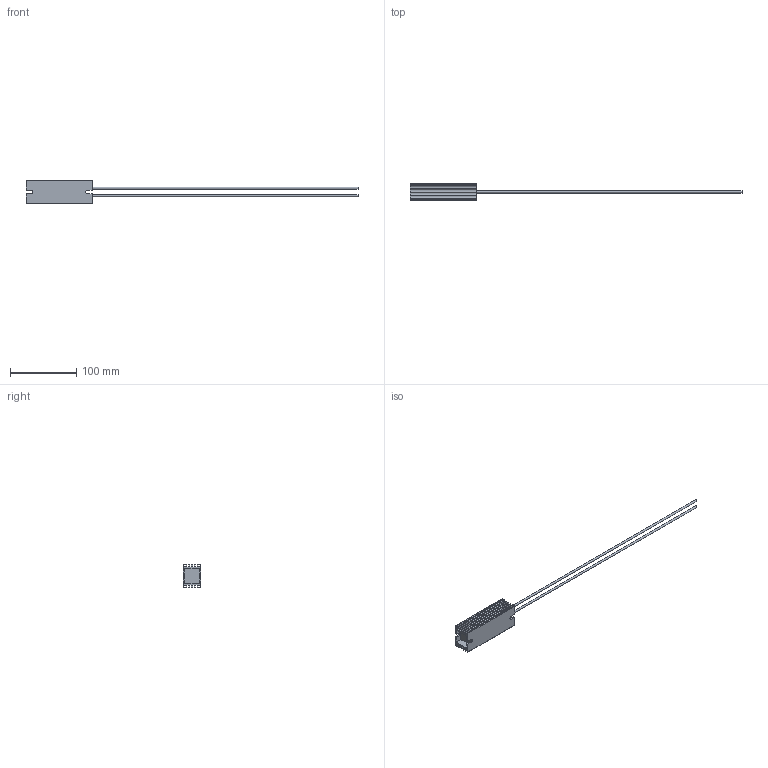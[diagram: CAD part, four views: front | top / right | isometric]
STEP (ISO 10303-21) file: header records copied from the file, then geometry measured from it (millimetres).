
FILE_DESCRIPTION(/* description */ (''),/* implementation_level */ '2;1');
FILE_NAME(/* name */ 'C:\_Vault\Dati\CATALOGO\RFZC\3D\RFZC100.stp',/* time_stamp */ '2014-03-27T17:38:01+01:00',/* author */ ('stefano'),/* organization */ (''),/* preprocessor_version */ 'ST-DEVELOPER v15.2',/* originating_system */ 'Autodesk Inventor 2014',/* authorisation */ '');
FILE_SCHEMA (('AUTOMOTIVE_DESIGN { 1 0 10303 214 3 1 1 }'));
Length unit declared in the file: millimetre
Products named in the file (1): RFZC100
Bounding box: 500 x 27 x 36 mm (x, y, z)
Volume: 80615 mm3; surface area: 31644 mm2
Topology: 1 solids, 1 shells, 94 faces, 262 edges, 172 vertices
Faces by surface type: plane 70, cylinder 24
Full cylindrical faces by diameter (mm): 3 x2
Entity records: 3124 total; most frequent: CARTESIAN_POINT 527, ORIENTED_EDGE 520, DIRECTION 506, EDGE_CURVE 260, LINE 204, VECTOR 204, VERTEX_POINT 172, AXIS2_PLACEMENT_3D 151
